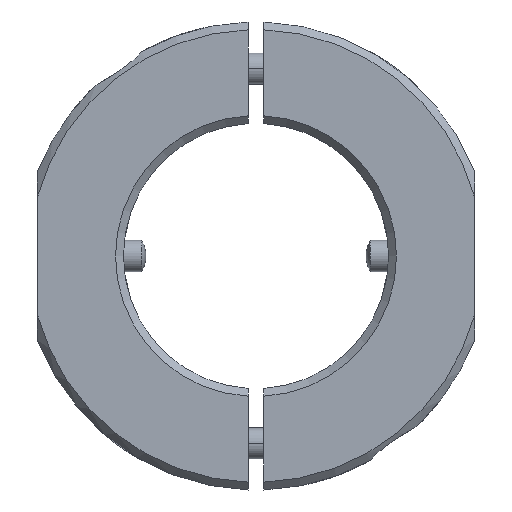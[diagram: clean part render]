
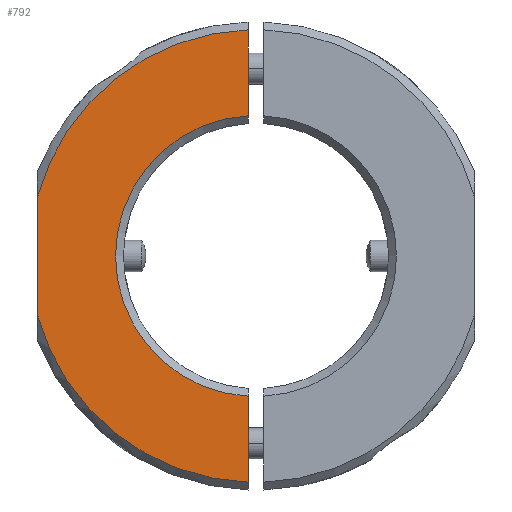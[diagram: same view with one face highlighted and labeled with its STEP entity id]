
A CAD part, front view. The second image highlights one B-rep face of the part: STEP entity #792.
In plain terms, the highlighted planar face has unit normal (0, -1, 0) as drawn and (1, 0, 0) by its records, which use the part's own axes.
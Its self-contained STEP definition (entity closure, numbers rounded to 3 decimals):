
#59=CARTESIAN_POINT('',(5.5,28.983,1.));
#83=CARTESIAN_POINT('',(5.5,-28.983,1.));
#192=CARTESIAN_POINT('',(5.5,0.,0.));
#193=DIRECTION('',(1.,0.,0.));
#194=DIRECTION('',(0.,0.998,0.056));
#195=AXIS2_PLACEMENT_3D('',#192,#193,#194);
#216=DIRECTION('',(0.,1.,0.));
#217=VECTOR('',#216,11.011);
#218=CARTESIAN_POINT('',(5.5,17.972,1.));
#219=LINE('',#218,#217);
#220=DIRECTION('',(0.,1.,0.));
#221=VECTOR('',#220,11.011);
#222=CARTESIAN_POINT('',(5.5,-28.983,1.));
#223=LINE('',#222,#221);
#224=DIRECTION('',(0.,-1.,0.));
#225=VECTOR('',#224,15.1);
#226=CARTESIAN_POINT('',(5.5,7.55,28.));
#227=LINE('',#226,#225);
#233=CARTESIAN_POINT('',(5.5,0.,0.));
#234=DIRECTION('',(1.,0.,0.));
#235=DIRECTION('',(0.,-0.26,0.966));
#236=AXIS2_PLACEMENT_3D('',#233,#234,#235);
#243=CARTESIAN_POINT('',(5.5,0.,0.));
#244=DIRECTION('',(1.,0.,0.));
#245=DIRECTION('',(0.,0.999,0.034));
#246=AXIS2_PLACEMENT_3D('',#243,#244,#245);
#523=CARTESIAN_POINT('',(5.5,7.55,28.));
#524=CARTESIAN_POINT('',(5.5,-7.55,28.));
#525=VERTEX_POINT('',#523);
#526=VERTEX_POINT('',#524);
#561=VERTEX_POINT('',#59);
#562=VERTEX_POINT('',#83);
#593=CARTESIAN_POINT('',(5.5,17.972,1.));
#594=CARTESIAN_POINT('',(5.5,-17.972,1.));
#595=VERTEX_POINT('',#593);
#596=VERTEX_POINT('',#594);
#776=CARTESIAN_POINT('',(5.5,0.,0.));
#777=DIRECTION('',(1.,0.,0.));
#778=DIRECTION('',(0.,-1.,0.));
#779=AXIS2_PLACEMENT_3D('',#776,#777,#778);
#780=PLANE('',#779);
#781=ORIENTED_EDGE('',*,*,#630,.F.);
#782=ORIENTED_EDGE('',*,*,#768,.T.);
#783=ORIENTED_EDGE('',*,*,#661,.F.);
#785=ORIENTED_EDGE('',*,*,#784,.F.);
#787=ORIENTED_EDGE('',*,*,#786,.F.);
#789=ORIENTED_EDGE('',*,*,#788,.F.);
#790=EDGE_LOOP('',(#781,#782,#783,#785,#787,#789));
#791=FACE_OUTER_BOUND('',#790,.F.);
#792=ADVANCED_FACE('',(#791),#780,.T.);
#196=CIRCLE('',#195,18.);
#237=CIRCLE('',#236,29.);
#247=CIRCLE('',#246,29.);
#630=EDGE_CURVE('',#595,#561,#219,.T.);
#661=EDGE_CURVE('',#562,#596,#223,.T.);
#768=EDGE_CURVE('',#595,#596,#196,.T.);
#784=EDGE_CURVE('',#526,#562,#237,.T.);
#786=EDGE_CURVE('',#525,#526,#227,.T.);
#788=EDGE_CURVE('',#561,#525,#247,.T.);
